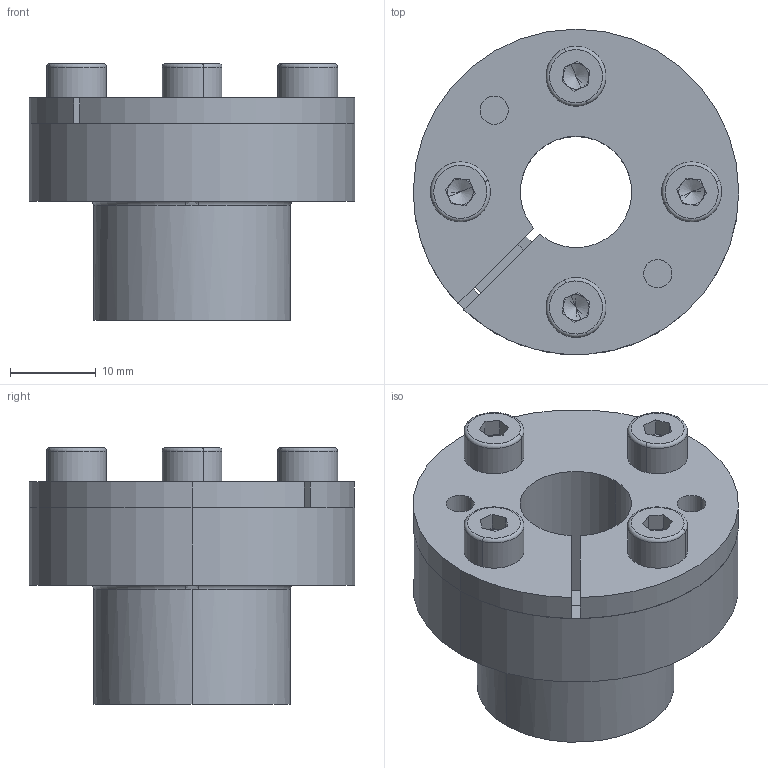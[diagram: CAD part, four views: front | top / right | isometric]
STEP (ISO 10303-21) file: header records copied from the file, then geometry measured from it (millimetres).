
FILE_DESCRIPTION (( 'STEP AP214' ), '1' );
FILE_NAME ('CONEX-B-13x23.step', '2013-04-04T12:41:10', ( 'Pc' ), ( '' ), 'SwSTEP 2.0', 'SolidWorks 2013', '' );
FILE_SCHEMA (( 'AUTOMOTIVE_DESIGN' ));
Length unit declared in the file: millimetre
Products named in the file (1): CONEX-B-13x23
Bounding box: 38 x 38 x 29.98 mm (x, y, z)
Volume: 14292.6 mm3; surface area: 12449.7 mm2
Topology: 7 solids, 7 shells, 174 faces, 414 edges, 250 vertices
Faces by surface type: plane 72, cylinder 52, torus 24, cone 22, bspline 4
Entity records: 7182 total; most frequent: CARTESIAN_POINT 1029, DIRECTION 942, ORIENTED_EDGE 812, EDGE_CURVE 406, AXIS2_PLACEMENT_3D 379, VERTEX_POINT 250, CIRCLE 208, EDGE_LOOP 200
